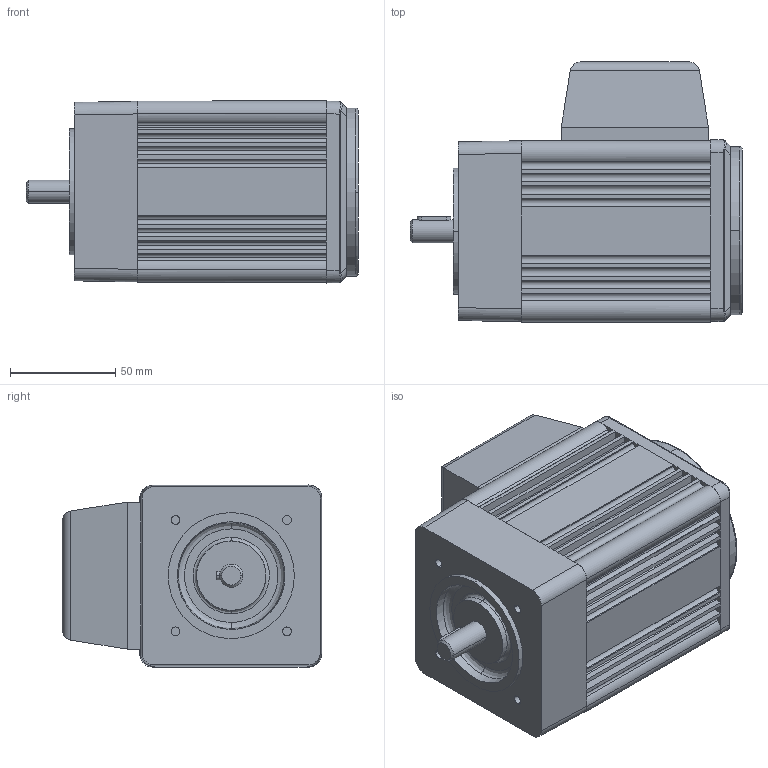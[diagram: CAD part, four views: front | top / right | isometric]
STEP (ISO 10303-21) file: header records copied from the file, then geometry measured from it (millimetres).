
FILE_DESCRIPTION(('OneSpaceDesigner STEP Export'),'2;1');
FILE_NAME('UE51_T_B14.stp','2008-04-16T10:32:17',(''),(''),'OneSpace Designer STEP processor (Jan. 2003) for AP214(CD)(Solid Model)','OneSpace Designer 12.01D 09-Jul-2004 (C) CoCreate Software GmbH','');
FILE_SCHEMA(('AUTOMOTIVE_DESIGN_CC2 {1 2 10303 214 -1 1 5 1}'));
Length unit declared in the file: millimetre
Products named in the file (2): UE51_T_B14
Assembly tree (1 placements, depth 2):
  UE51_T_B14
    UE51_T_B14
Bounding box: 158 x 123.64 x 86.62 mm (x, y, z)
Volume: 1089937.8 mm3; surface area: 97976 mm2
Topology: 1 solids, 1 shells, 337 faces, 851 edges, 513 vertices
Faces by surface type: plane 204, cylinder 105, bspline 24, torus 2, cone 2
Entity records: 16330 total; most frequent: CARTESIAN_POINT 9403, ORIENTED_EDGE 1702, DIRECTION 1101, EDGE_CURVE 851, VERTEX_POINT 513, VECTOR 463, LINE 463, EDGE_LOOP 346
